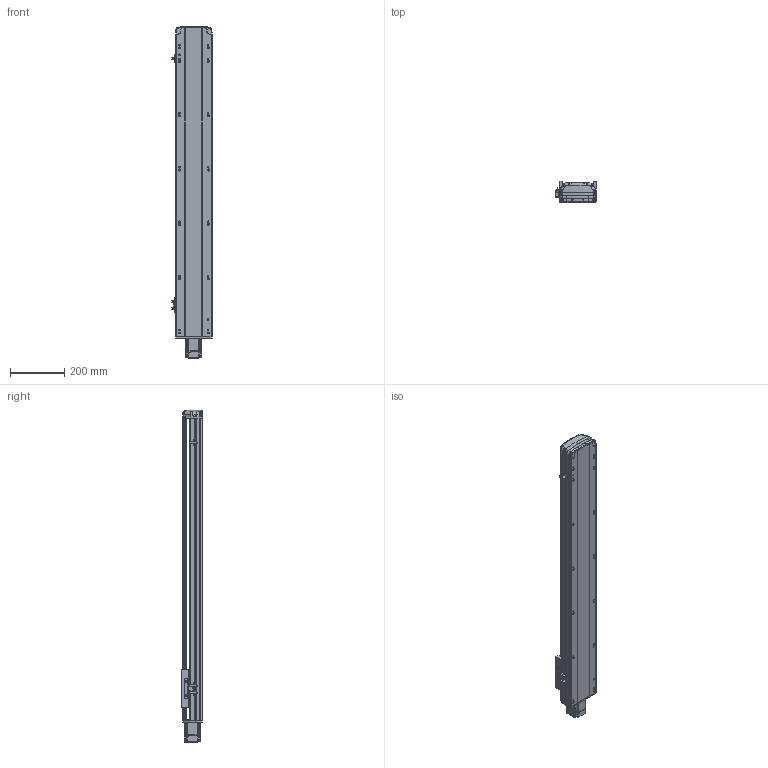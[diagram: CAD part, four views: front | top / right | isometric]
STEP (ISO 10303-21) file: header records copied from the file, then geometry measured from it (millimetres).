
FILE_DESCRIPTION (( 'STEP AP214' ), '1' );
FILE_NAME ('RTH14-XX-900-E-M20-C4.STEP', '2025-10-24T09:14:20', ( 'Microsoft' ), ( 'Microsoft' ), 'SwSTEP 2.0', 'SolidWorks 2018', '' );
FILE_SCHEMA (( 'AUTOMOTIVE_DESIGN' ));
Length unit declared in the file: millimetre
Products named in the file (9): RTH14-XX-900-E-M20-C4; N_RTH13-L-012感应片（外置）^RTH14-XX-XX-E-M20-C4; N_RTH14-E-011P菁釱^RTH14-XX-XX-E-M20-C4; N_RTH13-E-008萇儂耜猾裔^RTH14-XX-XX-E-M20-C4; N_OMRON EE-SX672 传感器^RTH14-XX-XX-E-M20-C4; N_RTH14-R-004-SFSR16賑釱^RTH14-XX-XX-E-M20-C4; N_MSMD022P1AA_200W^RTH14-XX-XX-E-M20-C4; N_RTH14-E-007P奻裔^RTH14-XX-XX-E-M20-C4; N_RTH14-GY-001P^RTH14-XX-XX-E-M20-C4
Assembly tree (10 placements, depth 2):
  RTH14-XX-900-E-M20-C4
    N_RTH14-E-011P菁釱^RTH14-XX-XX-E-M20-C4
    N_RTH14-E-007P奻裔^RTH14-XX-XX-E-M20-C4
    N_MSMD022P1AA_200W^RTH14-XX-XX-E-M20-C4
    N_RTH13-L-012感应片（外置）^RTH14-XX-XX-E-M20-C4
    N_OMRON EE-SX672 传感器^RTH14-XX-XX-E-M20-C4  x3
    N_RTH13-E-008萇儂耜猾裔^RTH14-XX-XX-E-M20-C4
    N_RTH14-R-004-SFSR16賑釱^RTH14-XX-XX-E-M20-C4
    N_RTH14-GY-001P^RTH14-XX-XX-E-M20-C4
Bounding box: 148.5 x 78.03 x 1222.49 mm (x, y, z)
Volume: 4987242.2 mm3; surface area: 1100309.6 mm2
Topology: 10 solids, 10 shells, 1895 faces, 5338 edges, 3508 vertices
Faces by surface type: plane 981, cylinder 524, bspline 341, cone 45, torus 4
Entity records: 58292 total; most frequent: CARTESIAN_POINT 23120, ORIENTED_EDGE 7744, DIRECTION 6299, EDGE_CURVE 3872, VERTEX_POINT 2544, LINE 2195, VECTOR 2195, AXIS2_PLACEMENT_3D 2052
